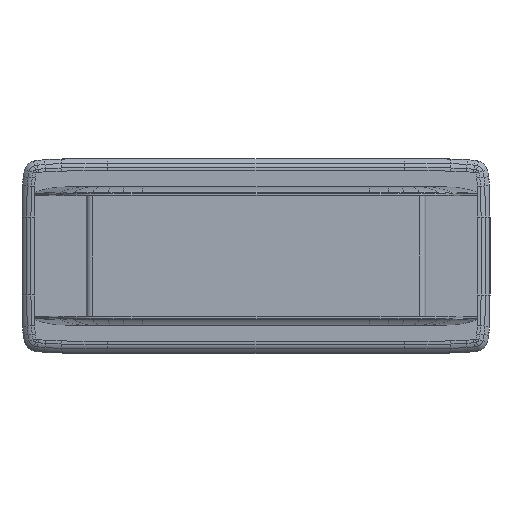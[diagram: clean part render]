
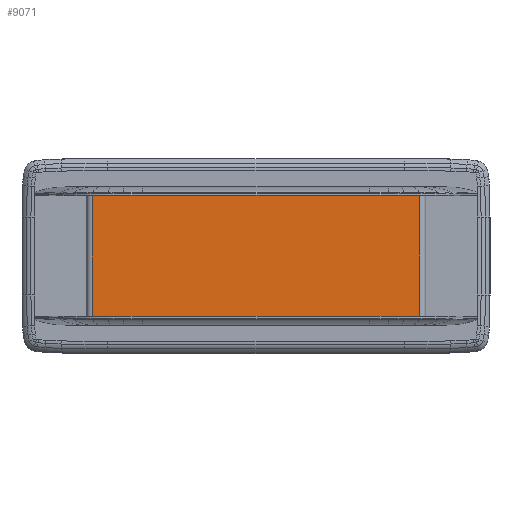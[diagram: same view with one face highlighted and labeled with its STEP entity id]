
A CAD part, front view. The second image highlights one B-rep face of the part: STEP entity #9071.
In plain terms, the highlighted planar face has unit normal (0, -1, 0).
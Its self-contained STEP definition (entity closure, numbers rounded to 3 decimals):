
#217 = LINE ( 'NONE', #8397, #3511 ) ;
#233 = EDGE_CURVE ( 'NONE', #5027, #3090, #217, .T. ) ;
#659 = DIRECTION ( 'NONE',  ( 0., -1., 0. ) ) ;
#869 = CARTESIAN_POINT ( 'NONE',  ( 420., 82., -155. ) ) ;
#1914 = EDGE_CURVE ( 'NONE', #3482, #8938, #5186, .T. ) ;
#2361 = FACE_OUTER_BOUND ( 'NONE', #8960, .T. ) ;
#2403 = EDGE_CURVE ( 'NONE', #3090, #8938, #2725, .T. ) ;
#2414 = DIRECTION ( 'NONE',  ( 1., 0., 0. ) ) ;
#2725 = LINE ( 'NONE', #5123, #4219 ) ;
#2773 = DIRECTION ( 'NONE',  ( 1., 0., 0. ) ) ;
#3090 = VERTEX_POINT ( 'NONE', #869 ) ;
#3468 = ORIENTED_EDGE ( 'NONE', *, *, #1914, .F. ) ;
#3482 = VERTEX_POINT ( 'NONE', #5743 ) ;
#3511 = VECTOR ( 'NONE', #2773, 1000. ) ;
#3514 = ORIENTED_EDGE ( 'NONE', *, *, #6434, .T. ) ;
#3524 = CARTESIAN_POINT ( 'NONE',  ( 435., 82., 155. ) ) ;
#4011 = DIRECTION ( 'NONE',  ( 0., 0., -1. ) ) ;
#4160 = VECTOR ( 'NONE', #4162, 1000. ) ;
#4162 = DIRECTION ( 'NONE',  ( 1., 0., 0. ) ) ;
#4219 = VECTOR ( 'NONE', #6677, 1000. ) ;
#4559 = CARTESIAN_POINT ( 'NONE',  ( -420., 82., -1025.186 ) ) ;
#5014 = ORIENTED_EDGE ( 'NONE', *, *, #233, .T. ) ;
#5027 = VERTEX_POINT ( 'NONE', #5888 ) ;
#5123 = CARTESIAN_POINT ( 'NONE',  ( 420., 82., -1025.186 ) ) ;
#5186 = LINE ( 'NONE', #3524, #4160 ) ;
#5396 = ORIENTED_EDGE ( 'NONE', *, *, #2403, .T. ) ;
#5743 = CARTESIAN_POINT ( 'NONE',  ( -420., 82., 155. ) ) ;
#5888 = CARTESIAN_POINT ( 'NONE',  ( -420., 82., -155. ) ) ;
#6434 = EDGE_CURVE ( 'NONE', #3482, #5027, #8641, .T. ) ;
#6464 = CARTESIAN_POINT ( 'NONE',  ( 435., 82., -1025.186 ) ) ;
#6534 = CARTESIAN_POINT ( 'NONE',  ( 420., 82., 155. ) ) ;
#6677 = DIRECTION ( 'NONE',  ( 0., 0., 1. ) ) ;
#7393 = PLANE ( 'NONE',  #8214 ) ;
#8214 = AXIS2_PLACEMENT_3D ( 'NONE', #6464, #659, #2414 ) ;
#8397 = CARTESIAN_POINT ( 'NONE',  ( 435., 82., -155. ) ) ;
#8641 = LINE ( 'NONE', #4559, #9047 ) ;
#8938 = VERTEX_POINT ( 'NONE', #6534 ) ;
#8960 = EDGE_LOOP ( 'NONE', ( #5014, #5396, #3468, #3514 ) ) ;
#9047 = VECTOR ( 'NONE', #4011, 1000. ) ;
#9071 = ADVANCED_FACE ( 'NONE', ( #2361 ), #7393, .T. ) ;
